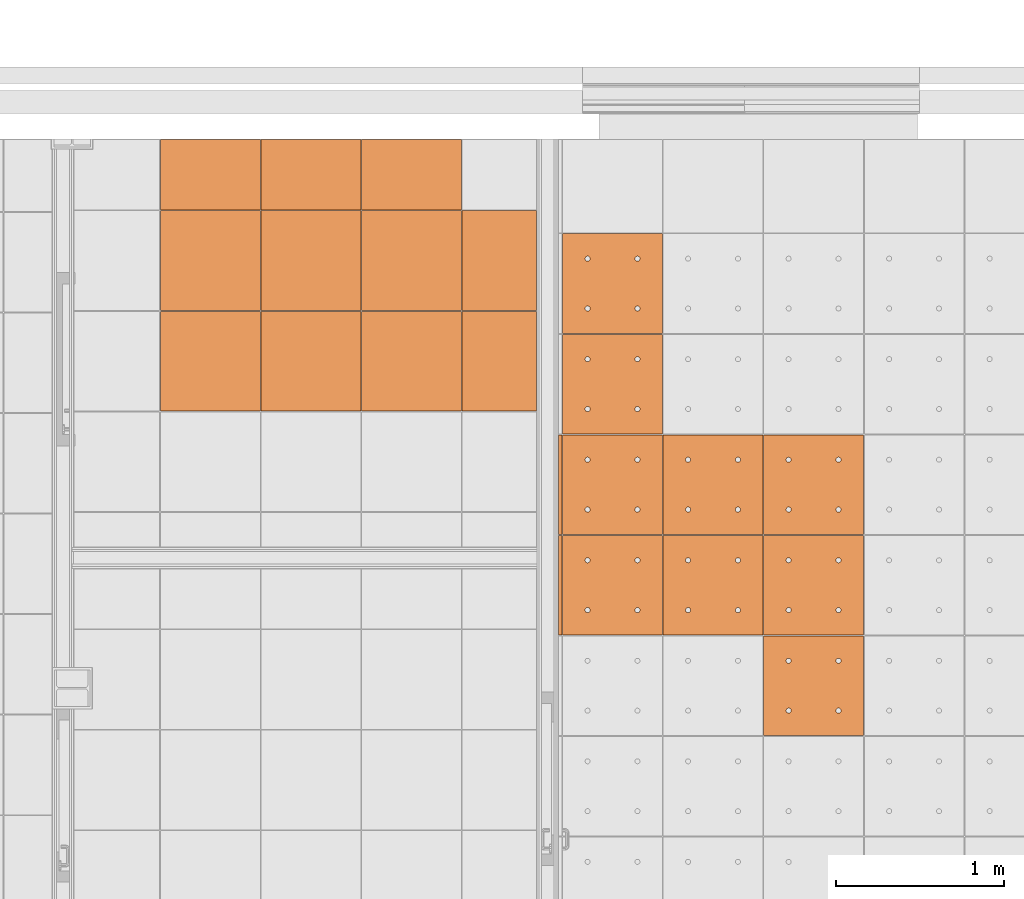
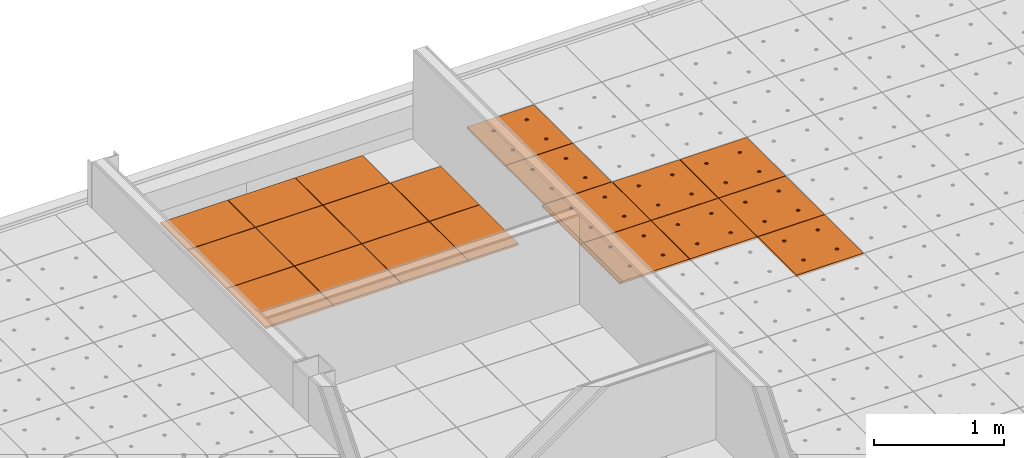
# One storey, part 300 of 338: 22 proxies, 2 elements without a shape of their own.
"""IFC2X3 building model written with IfcOpenShell, lengths in millimetres."""

from ifc_helpers import new_model, entity, si_unit, converted_unit, derived_unit, money_unit, direction, frame, origin_with_axes, place, context, subcontext, project, spatial, faceted_brep, source, transform, mapped, material, type_object, type_shapes, element, aggregate, save


model = new_model("IFC2X3")

# Units and contexts
model_context = context("Model", 3, precision=0.01, world=origin_with_axes(), true_north=direction((0.0, 1.0)))
plan_context = context("Plan", 3, precision=0.01, world=origin_with_axes(), true_north=direction((0.0, 1.0)))
body_context = subcontext(model_context, "Body", "Model", "MODEL_VIEW")
ifc_project = project(units=[si_unit("LENGTHUNIT", "METRE", prefix="MILLI"), si_unit("AREAUNIT", "SQUARE_METRE"), si_unit("VOLUMEUNIT", "CUBIC_METRE"), converted_unit("PLANEANGLEUNIT", "DEGREE", entity("IfcPlaneAngleMeasure", 0.0174532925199), si_unit("PLANEANGLEUNIT", "RADIAN"), dimensions=[0, 0, 0, 0, 0, 0, 0]), money_unit("EUR"), converted_unit("TIMEUNIT", "Year", entity("IfcTimeMeasure", 31556926.0), si_unit("TIMEUNIT", "SECOND"), dimensions=[0, 0, 1, 0, 0, 0, 0]), si_unit("MASSUNIT", "GRAM", prefix="KILO"), si_unit("THERMODYNAMICTEMPERATUREUNIT", "DEGREE_CELSIUS"), si_unit("LUMINOUSINTENSITYUNIT", "LUMEN"), si_unit("ENERGYUNIT", "JOULE", prefix="MEGA"), derived_unit("THERMALCONDUCTANCEUNIT", [(si_unit("POWERUNIT", "WATT"), 1), (si_unit("LENGTHUNIT", "METRE"), -1), (si_unit("THERMODYNAMICTEMPERATUREUNIT", "KELVIN"), -1)]), derived_unit("SPECIFICHEATCAPACITYUNIT", [(si_unit("ENERGYUNIT", "JOULE"), 1), (si_unit("MASSUNIT", "GRAM", prefix="KILO"), -1), (si_unit("THERMODYNAMICTEMPERATUREUNIT", "KELVIN"), -1)]), derived_unit("MASSDENSITYUNIT", [(si_unit("MASSUNIT", "GRAM", prefix="KILO"), 1), (si_unit("VOLUMEUNIT", "CUBIC_METRE"), -1)])], contexts=[model_context, plan_context])

# Site, building, storey
site_placement = place(None, origin_with_axes())
site = spatial("IfcSite", under=ifc_project, at=site_placement, Name="Fortuinstraat Woensdrecht", CompositionType="ELEMENT")
building_placement = place(site_placement, origin_with_axes())
building = spatial("IfcBuilding", under=site, at=building_placement, Name="IKC Fortuna", CompositionType="ELEMENT")
storey_placement = place(building_placement, origin_with_axes())
storey = spatial("IfcBuildingStorey", under=building, at=storey_placement, Name="00 begane grond", CompositionType="ELEMENT", Elevation=0.0)

# Covering, proxies
covering_type = type_object("IfcCoveringType", Name="Curtain Wall Type", PredefinedType="CEILING")
covering_1_placement = place(storey_placement, frame((21994.4445848, 33013.5541843, 2810.0), z_axis=(0.0, 0.0, 1.0), x_axis=(1.0, 0.0, 0.0)))
covering_1 = element("IfcCovering", 1, at=covering_1_placement, inside=storey, type_object=covering_type, Name="45_Plafondafwerking_P02", PredefinedType="CEILING")
ifc_material = material(Name="Gipsplaat")
building_element_proxy_type_1 = type_object("IfcBuildingElementProxyType", Name="Distinct Panel 600 x 600 x 20", PredefinedType="NOTDEFINED")
shared_shape_1 = source(origin_with_axes(), body_context, "Body", "Brep", [
    faceted_brep([(2.49999999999, 2.5, -10.0), (597.5, 2.49999999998, -10.0), (597.5, 2.49999999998, 10.0), (2.49999999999, 2.5, 10.0), (2.50000000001, 597.5, -10.0), (597.5, 597.5, -10.0), (597.5, 597.5, 10.0), (2.50000000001, 597.5, 10.0)], [[[0, 1, 2, 3]], [[0, 4, 5, 1]], [[1, 5, 6, 2]], [[3, 2, 6, 7]], [[4, 0, 3, 7]], [[5, 4, 7, 6]]]),
])
type_shapes(building_element_proxy_type_1, [shared_shape_1])
proxy_1_placement = place(covering_1_placement, frame((-600.0, 1006.24235499, 0.0), z_axis=(0.0, 0.0, 1.0), x_axis=(1.0, 0.0, 0.0)))
proxy_1 = element("IfcBuildingElementProxy", 2, at=proxy_1_placement, type_object=building_element_proxy_type_1, material=ifc_material, Name="__Panel-D", context=body_context, shape_type="MappedRepresentation", body=[
    mapped(shared_shape_1, transform((300.0, 300.0, 0.0), x_axis=(-1.0, 0.0, 0.0), y_axis=(0.0, -1.0, 0.0), z_axis=(0.0, 0.0, 1.0))),
])
proxy_2_placement = place(covering_1_placement, frame((600.0, 1006.24235499, 0.0), z_axis=(0.0, 0.0, 1.0), x_axis=(1.0, 0.0, 0.0)))
proxy_2 = element("IfcBuildingElementProxy", 3, at=proxy_2_placement, type_object=building_element_proxy_type_1, material=ifc_material, Name="__Panel-D", context=body_context, shape_type="MappedRepresentation", body=[
    mapped(shared_shape_1, transform((300.0, 300.0, 0.0), x_axis=(-1.0, 0.0, 0.0), y_axis=(0.0, -1.0, 0.0), z_axis=(0.0, 0.0, 1.0))),
])
proxy_3_placement = place(covering_1_placement, frame((0.0, 1606.24235499, 0.0), z_axis=(0.0, 0.0, 1.0), x_axis=(1.0, 0.0, 0.0)))
proxy_3 = element("IfcBuildingElementProxy", 4, at=proxy_3_placement, type_object=building_element_proxy_type_1, material=ifc_material, Name="__Panel-D", context=body_context, shape_type="MappedRepresentation", body=[
    mapped(shared_shape_1, transform((300.0, 300.0, 0.0), x_axis=(-1.0, 0.0, 0.0), y_axis=(0.0, -1.0, 0.0), z_axis=(0.0, 0.0, 1.0))),
])
proxy_4_placement = place(covering_1_placement, frame((-600.0, 1606.24235499, 0.0), z_axis=(0.0, 0.0, 1.0), x_axis=(1.0, 0.0, 0.0)))
proxy_4 = element("IfcBuildingElementProxy", 5, at=proxy_4_placement, type_object=building_element_proxy_type_1, material=ifc_material, Name="__Panel-D", context=body_context, shape_type="MappedRepresentation", body=[
    mapped(shared_shape_1, transform((300.0, 300.0, 0.0), x_axis=(-1.0, 0.0, 0.0), y_axis=(0.0, -1.0, 0.0), z_axis=(0.0, 0.0, 1.0))),
])
proxy_5_placement = place(covering_1_placement, frame((600.0, 1606.24235499, 0.0), z_axis=(0.0, 0.0, 1.0), x_axis=(1.0, 0.0, 0.0)))
proxy_5 = element("IfcBuildingElementProxy", 6, at=proxy_5_placement, type_object=building_element_proxy_type_1, material=ifc_material, Name="__Panel-D", context=body_context, shape_type="MappedRepresentation", body=[
    mapped(shared_shape_1, transform((300.0, 300.0, 0.0), x_axis=(-1.0, 0.0, 0.0), y_axis=(0.0, -1.0, 0.0), z_axis=(0.0, 0.0, 1.0))),
])
proxy_6_placement = place(covering_1_placement, frame((0.0, 1006.24235499, 0.0), z_axis=(0.0, 0.0, 1.0), x_axis=(1.0, 0.0, 0.0)))
proxy_6 = element("IfcBuildingElementProxy", 7, at=proxy_6_placement, type_object=building_element_proxy_type_1, material=ifc_material, Name="__Panel-D", context=body_context, shape_type="MappedRepresentation", body=[
    mapped(shared_shape_1, transform((300.0, 300.0, 0.0), x_axis=(-1.0, 0.0, 0.0), y_axis=(0.0, -1.0, 0.0), z_axis=(0.0, 0.0, 1.0))),
])
building_element_proxy_type_2 = type_object("IfcBuildingElementProxyType", Name="Distinct Panel 600 x 427 x 20", PredefinedType="NOTDEFINED")
shared_shape_2 = source(origin_with_axes(), body_context, "Body", "Brep", [
    faceted_brep([(2.5, 175.999919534, -10.0), (597.5, 175.999919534, -10.0), (597.5, 175.999919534, 10.0), (2.5, 175.999919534, 10.0), (2.50000000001, 597.5, -10.0), (597.5, 597.5, -10.0), (597.5, 597.5, 10.0), (2.50000000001, 597.5, 10.0)], [[[0, 1, 2, 3]], [[0, 4, 5, 1]], [[1, 5, 6, 2]], [[3, 2, 6, 7]], [[4, 0, 3, 7]], [[5, 4, 7, 6]]]),
])
type_shapes(building_element_proxy_type_2, [shared_shape_2])
proxy_7_placement = place(covering_1_placement, frame((-600.0, 2119.49239411, 0.0), z_axis=(0.0, 0.0, 1.0), x_axis=(1.0, 0.0, 0.0)))
proxy_7 = element("IfcBuildingElementProxy", 8, at=proxy_7_placement, type_object=building_element_proxy_type_2, material=ifc_material, Name="__Panel-D", context=body_context, shape_type="MappedRepresentation", body=[
    mapped(shared_shape_2, transform((300.0, 386.749960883, 0.0), x_axis=(-1.0, 0.0, 0.0), y_axis=(0.0, -1.0, 0.0), z_axis=(0.0, 0.0, 1.0))),
])
proxy_8_placement = place(covering_1_placement, frame((600.0, 2119.49239376, 0.0), z_axis=(0.0, 0.0, 1.0), x_axis=(1.0, 0.0, 0.0)))
proxy_8 = element("IfcBuildingElementProxy", 9, at=proxy_8_placement, type_object=building_element_proxy_type_2, material=ifc_material, Name="__Panel-D", context=body_context, shape_type="MappedRepresentation", body=[
    mapped(shared_shape_2, transform((300.0, 386.749961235, 0.0), x_axis=(-1.0, 0.0, 0.0), y_axis=(0.0, -1.0, 0.0), z_axis=(0.0, 0.0, 1.0))),
])
proxy_9_placement = place(covering_1_placement, frame((0.0, 2119.49239376, 0.0), z_axis=(0.0, 0.0, 1.0), x_axis=(1.0, 0.0, 0.0)))
proxy_9 = element("IfcBuildingElementProxy", 10, at=proxy_9_placement, type_object=building_element_proxy_type_2, material=ifc_material, Name="__Panel-D", context=body_context, shape_type="MappedRepresentation", body=[
    mapped(shared_shape_2, transform((300.0, 386.749961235, 0.0), x_axis=(-1.0, 0.0, 0.0), y_axis=(0.0, -1.0, 0.0), z_axis=(0.0, 0.0, 1.0))),
])
building_element_proxy_type_3 = type_object("IfcBuildingElementProxyType", Name="Distinct Panel 450 x 600 x 20", PredefinedType="NOTDEFINED")
shared_shape_3 = source(origin_with_axes(), body_context, "Body", "Brep", [
    faceted_brep([(152.589639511, 2.5, -10.0), (597.5, 2.49999999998, -10.0), (597.5, 2.49999999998, 10.0), (152.589639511, 2.5, 10.0), (152.589639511, 597.5, -10.0), (597.5, 597.5, -10.0), (597.5, 597.5, 10.0), (152.589639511, 597.5, 10.0)], [[[0, 1, 2, 3]], [[0, 4, 5, 1]], [[1, 5, 6, 2]], [[3, 2, 6, 7]], [[4, 0, 3, 7]], [[5, 4, 7, 6]]]),
])
type_shapes(building_element_proxy_type_3, [shared_shape_3])
proxy_10_placement = place(covering_1_placement, frame((1124.95518014, 1606.24235499, 0.0), z_axis=(0.0, 0.0, 1.0), x_axis=(1.0, 0.0, 0.0)))
proxy_10 = element("IfcBuildingElementProxy", 11, at=proxy_10_placement, type_object=building_element_proxy_type_3, material=ifc_material, Name="__Panel-D", context=body_context, shape_type="MappedRepresentation", body=[
    mapped(shared_shape_3, transform((375.044819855, 300.0, 0.0), x_axis=(-1.0, 0.0, 0.0), y_axis=(0.0, -1.0, 0.0), z_axis=(0.0, 0.0, 1.0))),
])
proxy_11_placement = place(covering_1_placement, frame((1124.95518014, 1006.24235499, 0.0), z_axis=(0.0, 0.0, 1.0), x_axis=(1.0, 0.0, 0.0)))
proxy_11 = element("IfcBuildingElementProxy", 12, at=proxy_11_placement, type_object=building_element_proxy_type_3, material=ifc_material, Name="__Panel-D", context=body_context, shape_type="MappedRepresentation", body=[
    mapped(shared_shape_3, transform((375.044819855, 300.0, 0.0), x_axis=(-1.0, 0.0, 0.0), y_axis=(0.0, -1.0, 0.0), z_axis=(0.0, 0.0, 1.0))),
])
aggregate(covering_1, [proxy_7, proxy_1, proxy_10, proxy_8, proxy_2, proxy_9, proxy_3, proxy_4, proxy_5, proxy_6, proxy_11])

covering_2_placement = place(storey_placement, frame((24394.3550152, 31482.3495284, 3210.0), z_axis=(0.0, 0.0, 1.0), x_axis=(1.0, 0.0, 0.0)))
covering_2 = element("IfcCovering", 13, at=covering_2_placement, inside=storey, type_object=covering_type, Name="45_Plafondafwerking_P01", PredefinedType="CEILING")
building_element_proxy_type_4 = type_object("IfcBuildingElementProxyType", Name="Main Panel 600 x 600 x 20", PredefinedType="NOTDEFINED")
shared_shape_4 = source(origin_with_axes(), body_context, "Body", "Brep", [
    faceted_brep([(2.49999999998, 2.49999999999, -10.0), (300.0, 2.49999999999, -10.0), (300.0, 2.49999999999, 10.0), (2.49999999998, 2.49999999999, 10.0), (2.49999999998, 300.0, -10.0), (2.49999999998, 597.5, -10.0), (300.0, 597.5, -10.0), (597.5, 597.5, -10.0), (597.5, 300.0, -10.0), (597.5, 2.49999999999, -10.0), (166.25, 450.06232995, -10.0), (165.79423259, 452.64711538, -10.0), (164.896546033, 455.11348892, -10.0), (163.58421608, 457.38651108, -10.0), (161.897117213, 459.39711721, -10.0), (159.886511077, 461.08421608, -10.0), (157.613488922, 462.39654603, -10.0), (155.147115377, 463.29423259, -10.0), (152.562329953, 463.75, -10.0), (149.937670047, 463.75, -10.0), (147.352884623, 463.29423259, -10.0), (144.886511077, 462.39654603, -10.0), (142.613488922, 461.08421608, -10.0), (140.602882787, 459.39711721, -10.0), (138.91578392, 457.38651108, -10.0), (137.603453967, 455.11348892, -10.0), (136.705767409, 452.64711538, -10.0), (136.25, 450.06232995, -10.0), (136.25, 448.75, -10.0), (136.25, 447.43767005, -10.0), (136.705767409, 444.85288462, -10.0), (137.603453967, 442.38651108, -10.0), (138.91578392, 440.11348892, -10.0), (140.602882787, 438.10288279, -10.0), (142.613488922, 436.41578392, -10.0), (144.886511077, 435.10345397, -10.0), (147.352884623, 434.20576741, -10.0), (149.937670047, 433.75, -10.0), (152.562329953, 433.75, -10.0), (155.147115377, 434.20576741, -10.0), (157.613488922, 435.10345397, -10.0), (159.886511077, 436.41578392, -10.0), (161.897117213, 438.10288279, -10.0), (163.58421608, 440.11348892, -10.0), (164.896546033, 442.38651108, -10.0), (165.79423259, 444.85288462, -10.0), (166.25, 447.43767005, -10.0), (463.75, 450.06232995, -10.0), (463.29423259, 452.64711538, -10.0), (462.396546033, 455.11348892, -10.0), (461.08421608, 457.38651108, -10.0), (459.397117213, 459.39711721, -10.0), (457.386511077, 461.08421608, -10.0), (455.113488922, 462.39654603, -10.0), (452.647115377, 463.29423259, -10.0), (450.062329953, 463.75, -10.0), (447.437670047, 463.75, -10.0), (444.852884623, 463.29423259, -10.0), (442.386511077, 462.39654603, -10.0), (440.113488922, 461.08421608, -10.0), (438.102882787, 459.39711721, -10.0), (436.41578392, 457.38651108, -10.0), (435.103453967, 455.11348892, -10.0), (434.205767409, 452.64711538, -10.0), (433.75, 450.06232995, -10.0), (433.75, 448.75, -10.0), (433.75, 447.43767005, -10.0), (434.205767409, 444.85288462, -10.0), (435.103453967, 442.38651108, -10.0), (436.41578392, 440.11348892, -10.0), (438.102882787, 438.10288279, -10.0), (440.113488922, 436.41578392, -10.0), (442.386511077, 435.10345397, -10.0), (444.852884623, 434.20576741, -10.0), (447.437670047, 433.75, -10.0), (450.062329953, 433.75, -10.0), (452.647115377, 434.20576741, -10.0), (455.113488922, 435.10345397, -10.0), (457.386511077, 436.41578392, -10.0), (459.397117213, 438.10288279, -10.0), (461.08421608, 440.11348892, -10.0), (462.396546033, 442.38651108, -10.0), (463.29423259, 444.85288462, -10.0), (463.75, 447.43767005, -10.0), (463.75, 152.56232995, -10.0), (463.29423259, 155.14711538, -10.0), (462.396546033, 157.61348892, -10.0), (461.08421608, 159.88651108, -10.0), (459.397117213, 161.89711721, -10.0), (457.386511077, 163.58421608, -10.0), (455.113488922, 164.89654603, -10.0), (452.647115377, 165.79423259, -10.0), (450.062329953, 166.25, -10.0), (447.437670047, 166.25, -10.0), (444.852884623, 165.79423259, -10.0), (442.386511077, 164.89654603, -10.0), (440.113488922, 163.58421608, -10.0), (438.102882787, 161.89711721, -10.0), (436.41578392, 159.88651108, -10.0), (435.103453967, 157.61348892, -10.0), (434.205767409, 155.14711538, -10.0), (433.75, 152.56232995, -10.0), (433.75, 151.25, -10.0), (433.75, 149.93767005, -10.0), (434.205767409, 147.35288462, -10.0), (435.103453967, 144.88651108, -10.0), (436.41578392, 142.61348892, -10.0), (438.102882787, 140.60288279, -10.0), (440.113488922, 138.91578392, -10.0), (442.386511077, 137.60345397, -10.0), (444.852884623, 136.70576741, -10.0), (447.437670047, 136.25, -10.0), (450.062329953, 136.25, -10.0), (452.647115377, 136.70576741, -10.0), (455.113488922, 137.60345397, -10.0), (457.386511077, 138.91578392, -10.0), (459.397117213, 140.60288279, -10.0), (461.08421608, 142.61348892, -10.0), (462.396546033, 144.88651108, -10.0), (463.29423259, 147.35288462, -10.0), (463.75, 149.93767005, -10.0), (166.25, 152.56232995, -10.0), (165.79423259, 155.14711538, -10.0), (164.896546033, 157.61348892, -10.0), (163.58421608, 159.88651108, -10.0), (161.897117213, 161.89711721, -10.0), (159.886511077, 163.58421608, -10.0), (157.613488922, 164.89654603, -10.0), (155.147115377, 165.79423259, -10.0), (152.562329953, 166.25, -10.0), (149.937670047, 166.25, -10.0), (147.352884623, 165.79423259, -10.0), (144.886511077, 164.89654603, -10.0), (142.613488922, 163.58421608, -10.0), (140.602882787, 161.89711721, -10.0), (138.91578392, 159.88651108, -10.0), (137.603453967, 157.61348892, -10.0), (136.705767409, 155.14711538, -10.0), (136.25, 152.56232995, -10.0), (136.25, 151.25, -10.0), (136.25, 149.93767005, -10.0), (136.705767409, 147.35288462, -10.0), (137.603453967, 144.88651108, -10.0), (138.91578392, 142.61348892, -10.0), (140.602882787, 140.60288279, -10.0), (142.613488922, 138.91578392, -10.0), (144.886511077, 137.60345397, -10.0), (147.352884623, 136.70576741, -10.0), (149.937670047, 136.25, -10.0), (152.562329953, 136.25, -10.0), (155.147115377, 136.70576741, -10.0), (157.613488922, 137.60345397, -10.0), (159.886511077, 138.91578392, -10.0), (161.897117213, 140.60288279, -10.0), (163.58421608, 142.61348892, -10.0), (164.896546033, 144.88651108, -10.0), (165.79423259, 147.35288462, -10.0), (166.25, 149.93767005, -10.0), (597.5, 2.49999999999, 10.0), (597.5, 300.0, 10.0), (597.5, 597.5, 10.0), (300.0, 597.5, 10.0), (2.49999999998, 597.5, 10.0), (2.49999999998, 300.0, 10.0), (166.25, 450.06232995, 10.0), (166.25, 447.43767005, 10.0), (165.79423259, 444.85288462, 10.0), (164.896546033, 442.38651108, 10.0), (163.58421608, 440.11348892, 10.0), (161.897117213, 438.10288279, 10.0), (159.886511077, 436.41578392, 10.0), (157.613488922, 435.10345397, 10.0), (155.147115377, 434.20576741, 10.0), (152.562329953, 433.75, 10.0), (149.937670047, 433.75, 10.0), (147.352884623, 434.20576741, 10.0), (144.886511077, 435.10345397, 10.0), (142.613488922, 436.41578392, 10.0), (140.602882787, 438.10288279, 10.0), (138.91578392, 440.11348892, 10.0), (137.603453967, 442.38651108, 10.0), (136.705767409, 444.85288462, 10.0), (136.25, 447.43767005, 10.0), (136.25, 448.75, 10.0), (136.25, 450.06232995, 10.0), (136.705767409, 452.64711538, 10.0), (137.603453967, 455.11348892, 10.0), (138.91578392, 457.38651108, 10.0), (140.602882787, 459.39711721, 10.0), (142.613488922, 461.08421608, 10.0), (144.886511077, 462.39654603, 10.0), (147.352884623, 463.29423259, 10.0), (149.937670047, 463.75, 10.0), (152.562329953, 463.75, 10.0), (155.147115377, 463.29423259, 10.0), (157.613488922, 462.39654603, 10.0), (159.886511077, 461.08421608, 10.0), (161.897117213, 459.39711721, 10.0), (163.58421608, 457.38651108, 10.0), (164.896546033, 455.11348892, 10.0), (165.79423259, 452.64711538, 10.0), (463.75, 450.06232995, 10.0), (463.75, 447.43767005, 10.0), (463.29423259, 444.85288462, 10.0), (462.396546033, 442.38651108, 10.0), (461.08421608, 440.11348892, 10.0), (459.397117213, 438.10288279, 10.0), (457.386511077, 436.41578392, 10.0), (455.113488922, 435.10345397, 10.0), (452.647115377, 434.20576741, 10.0), (450.062329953, 433.75, 10.0), (447.437670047, 433.75, 10.0), (444.852884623, 434.20576741, 10.0), (442.386511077, 435.10345397, 10.0), (440.113488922, 436.41578392, 10.0), (438.102882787, 438.10288279, 10.0), (436.41578392, 440.11348892, 10.0), (435.103453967, 442.38651108, 10.0), (434.205767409, 444.85288462, 10.0), (433.75, 447.43767005, 10.0), (433.75, 448.75, 10.0), (433.75, 450.06232995, 10.0), (434.205767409, 452.64711538, 10.0), (435.103453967, 455.11348892, 10.0), (436.41578392, 457.38651108, 10.0), (438.102882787, 459.39711721, 10.0), (440.113488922, 461.08421608, 10.0), (442.386511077, 462.39654603, 10.0), (444.852884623, 463.29423259, 10.0), (447.437670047, 463.75, 10.0), (450.062329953, 463.75, 10.0), (452.647115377, 463.29423259, 10.0), (455.113488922, 462.39654603, 10.0), (457.386511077, 461.08421608, 10.0), (459.397117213, 459.39711721, 10.0), (461.08421608, 457.38651108, 10.0), (462.396546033, 455.11348892, 10.0), (463.29423259, 452.64711538, 10.0), (463.75, 152.56232995, 10.0), (463.75, 149.93767005, 10.0), (463.29423259, 147.35288462, 10.0), (462.396546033, 144.88651108, 10.0), (461.08421608, 142.61348892, 10.0), (459.397117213, 140.60288279, 10.0), (457.386511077, 138.91578392, 10.0), (455.113488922, 137.60345397, 10.0), (452.647115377, 136.70576741, 10.0), (450.062329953, 136.25, 10.0), (447.437670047, 136.25, 10.0), (444.852884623, 136.70576741, 10.0), (442.386511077, 137.60345397, 10.0), (440.113488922, 138.91578392, 10.0), (438.102882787, 140.60288279, 10.0), (436.41578392, 142.61348892, 10.0), (435.103453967, 144.88651108, 10.0), (434.205767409, 147.35288462, 10.0), (433.75, 149.93767005, 10.0), (433.75, 151.25, 10.0), (433.75, 152.56232995, 10.0), (434.205767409, 155.14711538, 10.0), (435.103453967, 157.61348892, 10.0), (436.41578392, 159.88651108, 10.0), (438.102882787, 161.89711721, 10.0), (440.113488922, 163.58421608, 10.0), (442.386511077, 164.89654603, 10.0), (444.852884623, 165.79423259, 10.0), (447.437670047, 166.25, 10.0), (450.062329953, 166.25, 10.0), (452.647115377, 165.79423259, 10.0), (455.113488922, 164.89654603, 10.0), (457.386511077, 163.58421608, 10.0), (459.397117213, 161.89711721, 10.0), (461.08421608, 159.88651108, 10.0), (462.396546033, 157.61348892, 10.0), (463.29423259, 155.14711538, 10.0), (166.25, 152.56232995, 10.0), (166.25, 149.93767005, 10.0), (165.79423259, 147.35288462, 10.0), (164.896546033, 144.88651108, 10.0), (163.58421608, 142.61348892, 10.0), (161.897117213, 140.60288279, 10.0), (159.886511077, 138.91578392, 10.0), (157.613488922, 137.60345397, 10.0), (155.147115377, 136.70576741, 10.0), (152.562329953, 136.25, 10.0), (149.937670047, 136.25, 10.0), (147.352884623, 136.70576741, 10.0), (144.886511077, 137.60345397, 10.0), (142.613488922, 138.91578392, 10.0), (140.602882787, 140.60288279, 10.0), (138.91578392, 142.61348892, 10.0), (137.603453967, 144.88651108, 10.0), (136.705767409, 147.35288462, 10.0), (136.25, 149.93767005, 10.0), (136.25, 151.25, 10.0), (136.25, 152.56232995, 10.0), (136.705767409, 155.14711538, 10.0), (137.603453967, 157.61348892, 10.0), (138.91578392, 159.88651108, 10.0), (140.602882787, 161.89711721, 10.0), (142.613488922, 163.58421608, 10.0), (144.886511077, 164.89654603, 10.0), (147.352884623, 165.79423259, 10.0), (149.937670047, 166.25, 10.0), (152.562329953, 166.25, 10.0), (155.147115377, 165.79423259, 10.0), (157.613488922, 164.89654603, 10.0), (159.886511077, 163.58421608, 10.0), (161.897117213, 161.89711721, 10.0), (163.58421608, 159.88651108, 10.0), (164.896546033, 157.61348892, 10.0), (165.79423259, 155.14711538, 10.0)], [[[0, 1, 2, 3]], [[0, 4, 5, 6, 7, 8, 9, 1], [10, 11, 12, 13, 14, 15, 16, 17, 18, 19, 20, 21, 22, 23, 24, 25, 26, 27, 28, 29, 30, 31, 32, 33, 34, 35, 36, 37, 38, 39, 40, 41, 42, 43, 44, 45, 46], [47, 48, 49, 50, 51, 52, 53, 54, 55, 56, 57, 58, 59, 60, 61, 62, 63, 64, 65, 66, 67, 68, 69, 70, 71, 72, 73, 74, 75, 76, 77, 78, 79, 80, 81, 82, 83], [84, 85, 86, 87, 88, 89, 90, 91, 92, 93, 94, 95, 96, 97, 98, 99, 100, 101, 102, 103, 104, 105, 106, 107, 108, 109, 110, 111, 112, 113, 114, 115, 116, 117, 118, 119, 120], [121, 122, 123, 124, 125, 126, 127, 128, 129, 130, 131, 132, 133, 134, 135, 136, 137, 138, 139, 140, 141, 142, 143, 144, 145, 146, 147, 148, 149, 150, 151, 152, 153, 154, 155, 156, 157]], [[1, 9, 158, 2]], [[3, 2, 158, 159, 160, 161, 162, 163], [164, 165, 166, 167, 168, 169, 170, 171, 172, 173, 174, 175, 176, 177, 178, 179, 180, 181, 182, 183, 184, 185, 186, 187, 188, 189, 190, 191, 192, 193, 194, 195, 196, 197, 198, 199, 200], [201, 202, 203, 204, 205, 206, 207, 208, 209, 210, 211, 212, 213, 214, 215, 216, 217, 218, 219, 220, 221, 222, 223, 224, 225, 226, 227, 228, 229, 230, 231, 232, 233, 234, 235, 236, 237], [238, 239, 240, 241, 242, 243, 244, 245, 246, 247, 248, 249, 250, 251, 252, 253, 254, 255, 256, 257, 258, 259, 260, 261, 262, 263, 264, 265, 266, 267, 268, 269, 270, 271, 272, 273, 274], [275, 276, 277, 278, 279, 280, 281, 282, 283, 284, 285, 286, 287, 288, 289, 290, 291, 292, 293, 294, 295, 296, 297, 298, 299, 300, 301, 302, 303, 304, 305, 306, 307, 308, 309, 310, 311]], [[4, 0, 3, 163]], [[5, 4, 163, 162]], [[6, 5, 162, 161]], [[7, 6, 161, 160]], [[8, 7, 160, 159]], [[9, 8, 159, 158]], [[11, 10, 164, 200]], [[12, 11, 200, 199]], [[13, 12, 199, 198]], [[14, 13, 198, 197]], [[15, 14, 197, 196]], [[16, 15, 196, 195]], [[17, 16, 195, 194]], [[18, 17, 194, 193]], [[19, 18, 193, 192]], [[20, 19, 192, 191]], [[21, 20, 191, 190]], [[22, 21, 190, 189]], [[23, 22, 189, 188]], [[24, 23, 188, 187]], [[25, 24, 187, 186]], [[26, 25, 186, 185]], [[27, 26, 185, 184]], [[28, 27, 184, 183]], [[29, 28, 183, 182]], [[30, 29, 182, 181]], [[31, 30, 181, 180]], [[32, 31, 180, 179]], [[33, 32, 179, 178]], [[34, 33, 178, 177]], [[35, 34, 177, 176]], [[36, 35, 176, 175]], [[37, 36, 175, 174]], [[38, 37, 174, 173]], [[39, 38, 173, 172]], [[40, 39, 172, 171]], [[41, 40, 171, 170]], [[42, 41, 170, 169]], [[43, 42, 169, 168]], [[44, 43, 168, 167]], [[45, 44, 167, 166]], [[46, 45, 166, 165]], [[10, 46, 165, 164]], [[48, 47, 201, 237]], [[49, 48, 237, 236]], [[50, 49, 236, 235]], [[51, 50, 235, 234]], [[52, 51, 234, 233]], [[53, 52, 233, 232]], [[54, 53, 232, 231]], [[55, 54, 231, 230]], [[56, 55, 230, 229]], [[57, 56, 229, 228]], [[58, 57, 228, 227]], [[59, 58, 227, 226]], [[60, 59, 226, 225]], [[61, 60, 225, 224]], [[62, 61, 224, 223]], [[63, 62, 223, 222]], [[64, 63, 222, 221]], [[65, 64, 221, 220]], [[66, 65, 220, 219]], [[67, 66, 219, 218]], [[68, 67, 218, 217]], [[69, 68, 217, 216]], [[70, 69, 216, 215]], [[71, 70, 215, 214]], [[72, 71, 214, 213]], [[73, 72, 213, 212]], [[74, 73, 212, 211]], [[75, 74, 211, 210]], [[76, 75, 210, 209]], [[77, 76, 209, 208]], [[78, 77, 208, 207]], [[79, 78, 207, 206]], [[80, 79, 206, 205]], [[81, 80, 205, 204]], [[82, 81, 204, 203]], [[83, 82, 203, 202]], [[47, 83, 202, 201]], [[85, 84, 238, 274]], [[86, 85, 274, 273]], [[87, 86, 273, 272]], [[88, 87, 272, 271]], [[89, 88, 271, 270]], [[90, 89, 270, 269]], [[91, 90, 269, 268]], [[92, 91, 268, 267]], [[93, 92, 267, 266]], [[94, 93, 266, 265]], [[95, 94, 265, 264]], [[96, 95, 264, 263]], [[97, 96, 263, 262]], [[98, 97, 262, 261]], [[99, 98, 261, 260]], [[100, 99, 260, 259]], [[101, 100, 259, 258]], [[102, 101, 258, 257]], [[103, 102, 257, 256]], [[104, 103, 256, 255]], [[105, 104, 255, 254]], [[106, 105, 254, 253]], [[107, 106, 253, 252]], [[108, 107, 252, 251]], [[109, 108, 251, 250]], [[110, 109, 250, 249]], [[111, 110, 249, 248]], [[112, 111, 248, 247]], [[113, 112, 247, 246]], [[114, 113, 246, 245]], [[115, 114, 245, 244]], [[116, 115, 244, 243]], [[117, 116, 243, 242]], [[118, 117, 242, 241]], [[119, 118, 241, 240]], [[120, 119, 240, 239]], [[84, 120, 239, 238]], [[122, 121, 275, 311]], [[123, 122, 311, 310]], [[124, 123, 310, 309]], [[125, 124, 309, 308]], [[126, 125, 308, 307]], [[127, 126, 307, 306]], [[128, 127, 306, 305]], [[129, 128, 305, 304]], [[130, 129, 304, 303]], [[131, 130, 303, 302]], [[132, 131, 302, 301]], [[133, 132, 301, 300]], [[134, 133, 300, 299]], [[135, 134, 299, 298]], [[136, 135, 298, 297]], [[137, 136, 297, 296]], [[138, 137, 296, 295]], [[139, 138, 295, 294]], [[140, 139, 294, 293]], [[141, 140, 293, 292]], [[142, 141, 292, 291]], [[143, 142, 291, 290]], [[144, 143, 290, 289]], [[145, 144, 289, 288]], [[146, 145, 288, 287]], [[147, 146, 287, 286]], [[148, 147, 286, 285]], [[149, 148, 285, 284]], [[150, 149, 284, 283]], [[151, 150, 283, 282]], [[152, 151, 282, 281]], [[153, 152, 281, 280]], [[154, 153, 280, 279]], [[155, 154, 279, 278]], [[156, 155, 278, 277]], [[157, 156, 277, 276]], [[121, 157, 276, 275]]]),
])
type_shapes(building_element_proxy_type_4, [shared_shape_4])
proxy_12_placement = place(covering_2_placement, frame((0.0, 1200.0, 1.46105350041e-10), z_axis=(0.0, 0.0, 1.0), x_axis=(1.0, 0.0, 0.0)))
proxy_12 = element("IfcBuildingElementProxy", 14, at=proxy_12_placement, type_object=building_element_proxy_type_4, material=ifc_material, Name="__600x614 Rockfon Krios", context=body_context, shape_type="MappedRepresentation", body=[
    mapped(shared_shape_4, transform((300.0, 300.0, 0.0), x_axis=(-1.0, 0.0, 0.0), y_axis=(0.0, -1.0, 0.0), z_axis=(0.0, 0.0, 1.0))),
])
proxy_13_placement = place(covering_2_placement, frame((600.0, 1800.0, 1.26121335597e-10), z_axis=(0.0, 0.0, 1.0), x_axis=(1.0, 0.0, 0.0)))
proxy_13 = element("IfcBuildingElementProxy", 15, at=proxy_13_placement, type_object=building_element_proxy_type_4, material=ifc_material, Name="__600x618 Rockfon Krios", context=body_context, shape_type="MappedRepresentation", body=[
    mapped(shared_shape_4, transform((300.0, 300.0, 0.0), x_axis=(-1.0, 0.0, 0.0), y_axis=(0.0, -1.0, 0.0), z_axis=(0.0, 0.0, 1.0))),
])
proxy_14_placement = place(covering_2_placement, frame((-600.0, 1800.0, 1.65645275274e-10), z_axis=(0.0, 0.0, 1.0), x_axis=(1.0, 0.0, 0.0)))
proxy_14 = element("IfcBuildingElementProxy", 16, at=proxy_14_placement, type_object=building_element_proxy_type_4, material=ifc_material, Name="__600x620 Rockfon Krios", context=body_context, shape_type="MappedRepresentation", body=[
    mapped(shared_shape_4, transform((300.0, 300.0, 0.0), x_axis=(-1.0, 0.0, 0.0), y_axis=(0.0, -1.0, 0.0), z_axis=(0.0, 0.0, 1.0))),
])
proxy_15_placement = place(covering_2_placement, frame((-600.0, 2400.0, 1.65645275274e-10), z_axis=(0.0, 0.0, 1.0), x_axis=(1.0, 0.0, 0.0)))
proxy_15 = element("IfcBuildingElementProxy", 17, at=proxy_15_placement, type_object=building_element_proxy_type_4, material=ifc_material, Name="__600x621 Rockfon Krios", context=body_context, shape_type="MappedRepresentation", body=[
    mapped(shared_shape_4, transform((300.0, 300.0, 0.0), x_axis=(-1.0, 0.0, 0.0), y_axis=(0.0, -1.0, 0.0), z_axis=(0.0, 0.0, 1.0))),
])
proxy_16_placement = place(covering_2_placement, frame((0.0, 1800.0, 1.46105350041e-10), z_axis=(0.0, 0.0, 1.0), x_axis=(1.0, 0.0, 0.0)))
proxy_16 = element("IfcBuildingElementProxy", 18, at=proxy_16_placement, type_object=building_element_proxy_type_4, material=ifc_material, Name="__600x624 Rockfon Krios", context=body_context, shape_type="MappedRepresentation", body=[
    mapped(shared_shape_4, transform((300.0, 300.0, 0.0), x_axis=(-1.0, 0.0, 0.0), y_axis=(0.0, -1.0, 0.0), z_axis=(0.0, 0.0, 1.0))),
])
proxy_17_placement = place(covering_2_placement, frame((-600.0, 3000.0, 1.65645275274e-10), z_axis=(0.0, 0.0, 1.0), x_axis=(1.0, 0.0, 0.0)))
proxy_17 = element("IfcBuildingElementProxy", 19, at=proxy_17_placement, type_object=building_element_proxy_type_4, material=ifc_material, Name="__600x626 Rockfon Krios", context=body_context, shape_type="MappedRepresentation", body=[
    mapped(shared_shape_4, transform((300.0, 300.0, 0.0), x_axis=(-1.0, 0.0, 0.0), y_axis=(0.0, -1.0, 0.0), z_axis=(0.0, 0.0, 1.0))),
])
proxy_18_placement = place(covering_2_placement, frame((600.0, 600.0, 1.26121335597e-10), z_axis=(0.0, 0.0, 1.0), x_axis=(1.0, 0.0, 0.0)))
proxy_18 = element("IfcBuildingElementProxy", 20, at=proxy_18_placement, type_object=building_element_proxy_type_4, material=ifc_material, Name="__600x659 Rockfon Krios", context=body_context, shape_type="MappedRepresentation", body=[
    mapped(shared_shape_4, transform((300.0, 300.0, 0.0), x_axis=(-1.0, 0.0, 0.0), y_axis=(0.0, -1.0, 0.0), z_axis=(0.0, 0.0, 1.0))),
])
proxy_19_placement = place(covering_2_placement, frame((600.0, 1200.0, 1.26121335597e-10), z_axis=(0.0, 0.0, 1.0), x_axis=(1.0, 0.0, 0.0)))
proxy_19 = element("IfcBuildingElementProxy", 21, at=proxy_19_placement, type_object=building_element_proxy_type_4, material=ifc_material, Name="__600x663 Rockfon Krios", context=body_context, shape_type="MappedRepresentation", body=[
    mapped(shared_shape_4, transform((300.0, 300.0, 0.0), x_axis=(-1.0, 0.0, 0.0), y_axis=(0.0, -1.0, 0.0), z_axis=(0.0, 0.0, 1.0))),
])
proxy_20_placement = place(covering_2_placement, frame((-600.0, 1200.0, 1.65645275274e-10), z_axis=(0.0, 0.0, 1.0), x_axis=(1.0, 0.0, 0.0)))
proxy_20 = element("IfcBuildingElementProxy", 22, at=proxy_20_placement, type_object=building_element_proxy_type_4, material=ifc_material, Name="__600x665 Rockfon Krios", context=body_context, shape_type="MappedRepresentation", body=[
    mapped(shared_shape_4, transform((300.0, 300.0, 0.0), x_axis=(-1.0, 0.0, 0.0), y_axis=(0.0, -1.0, 0.0), z_axis=(0.0, 0.0, 1.0))),
])
building_element_proxy_type_5 = type_object("IfcBuildingElementProxyType", Name="25 x 600 x 20", PredefinedType="NOTDEFINED")
shared_shape_5 = source(origin_with_axes(), body_context, "Body", "Brep", [
    faceted_brep([(2.49999895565, 2.5, -10.0), (22.5000615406, 2.5, -10.0), (22.5000615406, 2.5, 10.0), (2.49999895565, 2.5, 10.0), (2.49999895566, 597.5, -10.0), (22.5000615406, 597.5, -10.0), (22.5000615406, 597.5, 10.0), (2.49999895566, 597.5, 10.0)], [[[0, 1, 2, 3]], [[0, 4, 5, 1]], [[1, 5, 6, 2]], [[3, 2, 6, 7]], [[4, 0, 3, 7]], [[5, 4, 7, 6]]]),
])
type_shapes(building_element_proxy_type_5, [shared_shape_5])
proxy_21_placement = place(covering_2_placement, frame((-912.50003077, 1800.0, 1.75859327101e-10), z_axis=(0.0, 0.0, 1.0), x_axis=(1.0, 0.0, 0.0)))
proxy_21 = element("IfcBuildingElementProxy", 23, at=proxy_21_placement, type_object=building_element_proxy_type_5, material=ifc_material, Name="__600x710 Rockfon Krios", context=body_context, shape_type="MappedRepresentation", body=[
    mapped(shared_shape_5, transform((12.5000307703, 300.0, 0.0), x_axis=(-1.0, 0.0, 0.0), y_axis=(0.0, -1.0, 0.0), z_axis=(0.0, 0.0, 1.0))),
])
proxy_22_placement = place(covering_2_placement, frame((-912.50003077, 1200.0, 1.75859327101e-10), z_axis=(0.0, 0.0, 1.0), x_axis=(1.0, 0.0, 0.0)))
proxy_22 = element("IfcBuildingElementProxy", 24, at=proxy_22_placement, type_object=building_element_proxy_type_5, material=ifc_material, Name="__600x718 Rockfon Krios", context=body_context, shape_type="MappedRepresentation", body=[
    mapped(shared_shape_5, transform((12.5000307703, 300.0, 0.0), x_axis=(-1.0, 0.0, 0.0), y_axis=(0.0, -1.0, 0.0), z_axis=(0.0, 0.0, 1.0))),
])
aggregate(covering_2, [proxy_12, proxy_13, proxy_14, proxy_15, proxy_16, proxy_17, proxy_18, proxy_19, proxy_20, proxy_21, proxy_22])

save(model, "model.ifc")
